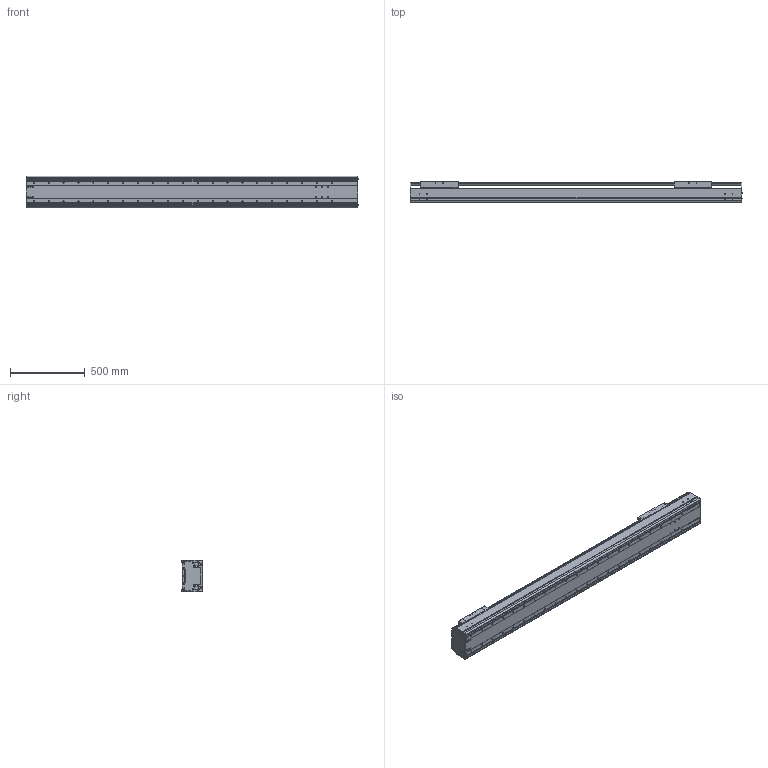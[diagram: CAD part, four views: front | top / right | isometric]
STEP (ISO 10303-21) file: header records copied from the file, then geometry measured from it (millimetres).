
FILE_DESCRIPTION((''),'2;1');
FILE_NAME('BE60J-ST-M_B-H0_IGS_PRT','2017-06-18T',(' '),(''),'PRO/ENGINEER BY PARAMETRIC TECHNOLOGY CORPORATION, 2015030','PRO/ENGINEER BY PARAMETRIC TECHNOLOGY CORPORATION, 2015030','');
FILE_SCHEMA(('CONFIG_CONTROL_DESIGN'));
Length unit declared in the file: millimetre
Products named in the file (1): BE60J-ST-M_B-H0_IGS_PRT
Bounding box: 2227.4 x 140 x 214 mm (x, y, z)
Volume: 17978826.6 mm3; surface area: 4714174.8 mm2
Topology: 3 solids, 41 shells, 1413 faces, 3720 edges, 2406 vertices
Faces by surface type: cylinder 676, plane 621, cone 68, torus 24, sphere 24
Entity records: 44289 total; most frequent: CARTESIAN_POINT 8374, DIRECTION 7726, ORIENTED_EDGE 7160, EDGE_CURVE 3652, AXIS2_PLACEMENT_3D 2838, VERTEX_POINT 2404, VECTOR 2050, LINE 2050
